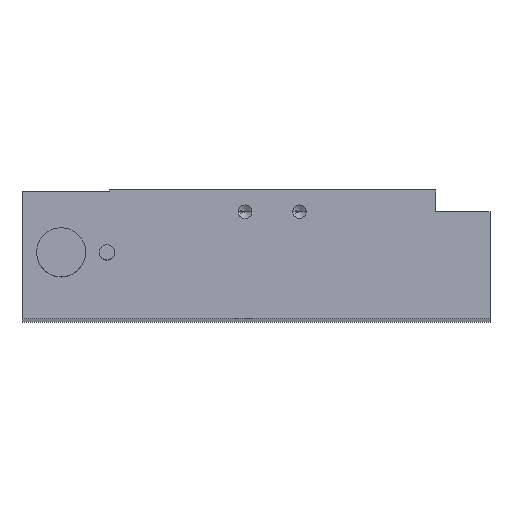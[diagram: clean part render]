
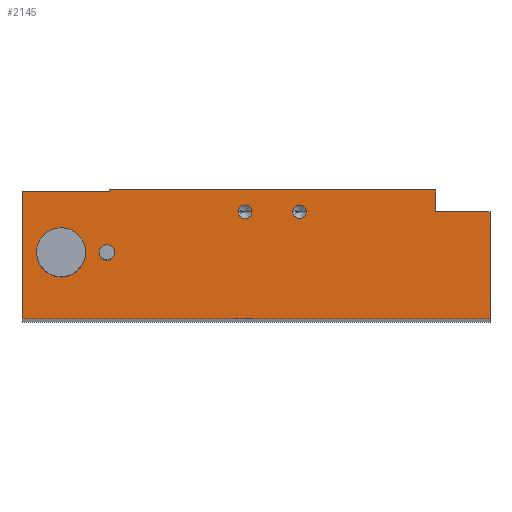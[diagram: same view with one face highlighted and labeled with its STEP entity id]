
A CAD part, top view. The second image highlights one B-rep face of the part: STEP entity #2145.
In plain terms, the highlighted planar face has unit normal (0, 0, 1).
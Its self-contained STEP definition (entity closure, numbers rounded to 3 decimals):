
#28 = CARTESIAN_POINT ( 'NONE',  ( 674.781, 445.082, 0. ) ) ;
#71 = FACE_BOUND ( 'NONE', #688, .T. ) ;
#86 = CARTESIAN_POINT ( 'NONE',  ( 674.781, 445.082, 0. ) ) ;
#116 = ORIENTED_EDGE ( 'NONE', *, *, #1691, .F. ) ;
#119 = PLANE ( 'NONE',  #1510 ) ;
#159 = LINE ( 'NONE', #2211, #1425 ) ;
#199 = DIRECTION ( 'NONE',  ( 1., 0., 0. ) ) ;
#209 = CARTESIAN_POINT ( 'NONE',  ( 727.031, 441.282, 0. ) ) ;
#215 = VERTEX_POINT ( 'NONE', #209 ) ;
#232 = DIRECTION ( 'NONE',  ( 0., 0., 1. ) ) ;
#246 = DIRECTION ( 'NONE',  ( 0., 0., 1. ) ) ;
#270 = DIRECTION ( 'NONE',  ( 1., 0., 0. ) ) ;
#280 = CIRCLE ( 'NONE', #712, 1.25 ) ;
#342 = CARTESIAN_POINT ( 'NONE',  ( 717.031, 441.282, 0. ) ) ;
#361 = LINE ( 'NONE', #929, #1991 ) ;
#379 = EDGE_CURVE ( 'NONE', #850, #2244, #1995, .T. ) ;
#422 = EDGE_CURVE ( 'NONE', #433, #622, #1309, .T. ) ;
#423 = CIRCLE ( 'NONE', #2465, 1.25 ) ;
#431 = AXIS2_PLACEMENT_3D ( 'NONE', #2511, #246, #2453 ) ;
#433 = VERTEX_POINT ( 'NONE', #1132 ) ;
#434 = CARTESIAN_POINT ( 'NONE',  ( 750.781, 441.282, 0. ) ) ;
#492 = CARTESIAN_POINT ( 'NONE',  ( 750.781, 445.282, 0. ) ) ;
#500 = VECTOR ( 'NONE', #1062, 1000. ) ;
#553 = CARTESIAN_POINT ( 'NONE',  ( 714.531, 441.282, 0. ) ) ;
#563 = CARTESIAN_POINT ( 'NONE',  ( 715.781, 441.282, 0. ) ) ;
#577 = AXIS2_PLACEMENT_3D ( 'NONE', #1446, #2462, #2435 ) ;
#592 = ORIENTED_EDGE ( 'NONE', *, *, #1877, .F. ) ;
#597 = FACE_OUTER_BOUND ( 'NONE', #2502, .T. ) ;
#604 = EDGE_CURVE ( 'NONE', #215, #1659, #280, .T. ) ;
#605 = DIRECTION ( 'NONE',  ( 1., 0., 0. ) ) ;
#622 = VERTEX_POINT ( 'NONE', #1241 ) ;
#625 = CARTESIAN_POINT ( 'NONE',  ( 750.781, 445.282, 0. ) ) ;
#639 = EDGE_CURVE ( 'NONE', #2317, #2067, #1152, .T. ) ;
#647 = VECTOR ( 'NONE', #1929, 1000. ) ;
#656 = CARTESIAN_POINT ( 'NONE',  ( 724.531, 441.282, 0. ) ) ;
#667 = FACE_BOUND ( 'NONE', #1714, .T. ) ;
#678 = ORIENTED_EDGE ( 'NONE', *, *, #1466, .F. ) ;
#688 = EDGE_LOOP ( 'NONE', ( #678, #843 ) ) ;
#712 = AXIS2_PLACEMENT_3D ( 'NONE', #2057, #1845, #605 ) ;
#757 = DIRECTION ( 'NONE',  ( 0., 1., 0. ) ) ;
#783 = AXIS2_PLACEMENT_3D ( 'NONE', #2519, #1487, #270 ) ;
#809 = VERTEX_POINT ( 'NONE', #434 ) ;
#843 = ORIENTED_EDGE ( 'NONE', *, *, #639, .F. ) ;
#844 = VECTOR ( 'NONE', #1503, 1000. ) ;
#848 = CARTESIAN_POINT ( 'NONE',  ( 674.781, 421.582, 0. ) ) ;
#850 = VERTEX_POINT ( 'NONE', #553 ) ;
#854 = EDGE_LOOP ( 'NONE', ( #1473, #116 ) ) ;
#869 = VERTEX_POINT ( 'NONE', #932 ) ;
#907 = LINE ( 'NONE', #86, #844 ) ;
#910 = EDGE_CURVE ( 'NONE', #809, #1490, #1667, .T. ) ;
#916 = ORIENTED_EDGE ( 'NONE', *, *, #422, .T. ) ;
#929 = CARTESIAN_POINT ( 'NONE',  ( 690.781, 445.282, 0. ) ) ;
#932 = CARTESIAN_POINT ( 'NONE',  ( 688.981, 433.782, 0. ) ) ;
#944 = CIRCLE ( 'NONE', #1587, 1.4 ) ;
#954 = CARTESIAN_POINT ( 'NONE',  ( 674.781, 421.582, 0. ) ) ;
#963 = CARTESIAN_POINT ( 'NONE',  ( 686.481, 433.782, 0. ) ) ;
#982 = DIRECTION ( 'NONE',  ( 0., 0., 1. ) ) ;
#1062 = DIRECTION ( 'NONE',  ( 1., 0., 0. ) ) ;
#1073 = VERTEX_POINT ( 'NONE', #2053 ) ;
#1089 = CARTESIAN_POINT ( 'NONE',  ( 677.481, 433.782, 0. ) ) ;
#1129 = DIRECTION ( 'NONE',  ( 0., 0., 1. ) ) ;
#1131 = DIRECTION ( 'NONE',  ( 0., -1., 0. ) ) ;
#1132 = CARTESIAN_POINT ( 'NONE',  ( 760.781, 421.582, 0. ) ) ;
#1141 = CIRCLE ( 'NONE', #2422, 1.25 ) ;
#1148 = VECTOR ( 'NONE', #1131, 1000. ) ;
#1152 = CIRCLE ( 'NONE', #577, 4.5 ) ;
#1174 = AXIS2_PLACEMENT_3D ( 'NONE', #563, #1290, #1188 ) ;
#1188 = DIRECTION ( 'NONE',  ( 1., 0., 0. ) ) ;
#1220 = CARTESIAN_POINT ( 'NONE',  ( 715.781, 441.282, 0. ) ) ;
#1241 = CARTESIAN_POINT ( 'NONE',  ( 760.781, 441.282, 0. ) ) ;
#1272 = EDGE_CURVE ( 'NONE', #1490, #1073, #361, .T. ) ;
#1290 = DIRECTION ( 'NONE',  ( 0., 0., 1. ) ) ;
#1309 = LINE ( 'NONE', #1745, #2335 ) ;
#1313 = EDGE_LOOP ( 'NONE', ( #592, #2174 ) ) ;
#1385 = VERTEX_POINT ( 'NONE', #2423 ) ;
#1423 = ORIENTED_EDGE ( 'NONE', *, *, #2064, .T. ) ;
#1425 = VECTOR ( 'NONE', #2397, 1000. ) ;
#1439 = CARTESIAN_POINT ( 'NONE',  ( 690.381, 433.782, 0. ) ) ;
#1446 = CARTESIAN_POINT ( 'NONE',  ( 681.981, 433.782, 0. ) ) ;
#1466 = EDGE_CURVE ( 'NONE', #2067, #2317, #2021, .T. ) ;
#1473 = ORIENTED_EDGE ( 'NONE', *, *, #2542, .F. ) ;
#1487 = DIRECTION ( 'NONE',  ( 0., 0., 1. ) ) ;
#1490 = VERTEX_POINT ( 'NONE', #625 ) ;
#1503 = DIRECTION ( 'NONE',  ( 0., -1., 0. ) ) ;
#1510 = AXIS2_PLACEMENT_3D ( 'NONE', #1951, #1129, #2541 ) ;
#1583 = VECTOR ( 'NONE', #2086, 1000. ) ;
#1587 = AXIS2_PLACEMENT_3D ( 'NONE', #1439, #232, #1643 ) ;
#1590 = EDGE_CURVE ( 'NONE', #1073, #1825, #2186, .T. ) ;
#1600 = ORIENTED_EDGE ( 'NONE', *, *, #1272, .T. ) ;
#1609 = ORIENTED_EDGE ( 'NONE', *, *, #1590, .T. ) ;
#1619 = FACE_BOUND ( 'NONE', #1313, .T. ) ;
#1623 = CARTESIAN_POINT ( 'NONE',  ( 690.781, 445.09, 0. ) ) ;
#1639 = EDGE_CURVE ( 'NONE', #1659, #215, #423, .T. ) ;
#1643 = DIRECTION ( 'NONE',  ( 1., 0., 0. ) ) ;
#1659 = VERTEX_POINT ( 'NONE', #656 ) ;
#1660 = DIRECTION ( 'NONE',  ( 1., 0., 0. ) ) ;
#1667 = LINE ( 'NONE', #492, #647 ) ;
#1691 = EDGE_CURVE ( 'NONE', #1385, #869, #2144, .T. ) ;
#1714 = EDGE_LOOP ( 'NONE', ( #2143, #1887 ) ) ;
#1745 = CARTESIAN_POINT ( 'NONE',  ( 760.781, 441.282, 0. ) ) ;
#1825 = VERTEX_POINT ( 'NONE', #1623 ) ;
#1845 = DIRECTION ( 'NONE',  ( 0., 0., 1. ) ) ;
#1873 = CARTESIAN_POINT ( 'NONE',  ( 674.781, 445.082, 0. ) ) ;
#1877 = EDGE_CURVE ( 'NONE', #2244, #850, #1141, .T. ) ;
#1887 = ORIENTED_EDGE ( 'NONE', *, *, #1639, .F. ) ;
#1929 = DIRECTION ( 'NONE',  ( 0., 1., 0. ) ) ;
#1951 = CARTESIAN_POINT ( 'NONE',  ( 750.781, 441.282, 0. ) ) ;
#1986 = EDGE_CURVE ( 'NONE', #1825, #2556, #2204, .T. ) ;
#1987 = EDGE_CURVE ( 'NONE', #2282, #433, #2141, .T. ) ;
#1991 = VECTOR ( 'NONE', #2544, 1000. ) ;
#1995 = CIRCLE ( 'NONE', #1174, 1.25 ) ;
#2021 = CIRCLE ( 'NONE', #431, 4.5 ) ;
#2053 = CARTESIAN_POINT ( 'NONE',  ( 690.781, 445.282, 0. ) ) ;
#2057 = CARTESIAN_POINT ( 'NONE',  ( 725.781, 441.282, 0. ) ) ;
#2064 = EDGE_CURVE ( 'NONE', #2556, #2282, #907, .T. ) ;
#2067 = VERTEX_POINT ( 'NONE', #1089 ) ;
#2086 = DIRECTION ( 'NONE',  ( -1., 0., 0. ) ) ;
#2089 = CARTESIAN_POINT ( 'NONE',  ( 690.781, 445.282, 0. ) ) ;
#2141 = LINE ( 'NONE', #848, #500 ) ;
#2143 = ORIENTED_EDGE ( 'NONE', *, *, #604, .F. ) ;
#2144 = CIRCLE ( 'NONE', #783, 1.4 ) ;
#2145 = ADVANCED_FACE ( 'NONE', ( #1619, #667, #2175, #71, #597 ), #119, .T. ) ;
#2174 = ORIENTED_EDGE ( 'NONE', *, *, #379, .F. ) ;
#2175 = FACE_BOUND ( 'NONE', #854, .T. ) ;
#2186 = LINE ( 'NONE', #2089, #1148 ) ;
#2204 = LINE ( 'NONE', #1873, #1583 ) ;
#2211 = CARTESIAN_POINT ( 'NONE',  ( 750.781, 441.282, 0. ) ) ;
#2232 = ORIENTED_EDGE ( 'NONE', *, *, #2337, .T. ) ;
#2244 = VERTEX_POINT ( 'NONE', #342 ) ;
#2282 = VERTEX_POINT ( 'NONE', #954 ) ;
#2317 = VERTEX_POINT ( 'NONE', #963 ) ;
#2335 = VECTOR ( 'NONE', #757, 1000. ) ;
#2337 = EDGE_CURVE ( 'NONE', #622, #809, #159, .T. ) ;
#2347 = ORIENTED_EDGE ( 'NONE', *, *, #1987, .T. ) ;
#2373 = ORIENTED_EDGE ( 'NONE', *, *, #1986, .T. ) ;
#2397 = DIRECTION ( 'NONE',  ( -1., 0., 0. ) ) ;
#2422 = AXIS2_PLACEMENT_3D ( 'NONE', #1220, #982, #1660 ) ;
#2423 = CARTESIAN_POINT ( 'NONE',  ( 691.781, 433.782, 0. ) ) ;
#2433 = DIRECTION ( 'NONE',  ( 0., 0., 1. ) ) ;
#2435 = DIRECTION ( 'NONE',  ( 1., 0., 0. ) ) ;
#2439 = ORIENTED_EDGE ( 'NONE', *, *, #910, .T. ) ;
#2453 = DIRECTION ( 'NONE',  ( 1., 0., 0. ) ) ;
#2462 = DIRECTION ( 'NONE',  ( 0., 0., 1. ) ) ;
#2465 = AXIS2_PLACEMENT_3D ( 'NONE', #2477, #2433, #199 ) ;
#2477 = CARTESIAN_POINT ( 'NONE',  ( 725.781, 441.282, 0. ) ) ;
#2502 = EDGE_LOOP ( 'NONE', ( #2439, #1600, #1609, #2373, #1423, #2347, #916, #2232 ) ) ;
#2511 = CARTESIAN_POINT ( 'NONE',  ( 681.981, 433.782, 0. ) ) ;
#2519 = CARTESIAN_POINT ( 'NONE',  ( 690.381, 433.782, 0. ) ) ;
#2541 = DIRECTION ( 'NONE',  ( 1., 0., 0. ) ) ;
#2542 = EDGE_CURVE ( 'NONE', #869, #1385, #944, .T. ) ;
#2544 = DIRECTION ( 'NONE',  ( -1., 0., 0. ) ) ;
#2556 = VERTEX_POINT ( 'NONE', #28 ) ;
